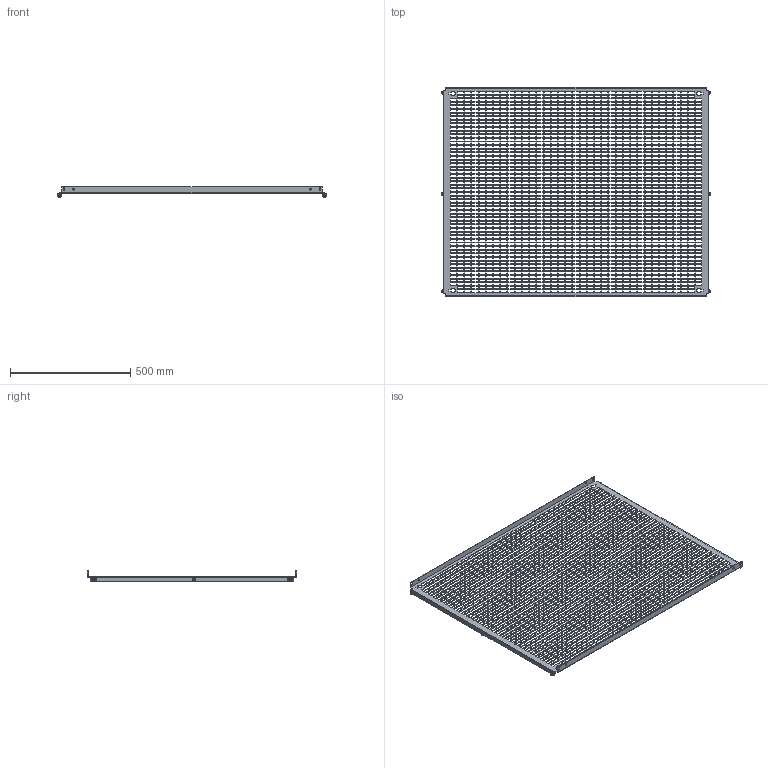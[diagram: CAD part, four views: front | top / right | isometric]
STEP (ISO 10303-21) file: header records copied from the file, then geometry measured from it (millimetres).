
FILE_DESCRIPTION(('Open CASCADE Model'),'2;1');
FILE_NAME('Open CASCADE Shape Model','2025-02-19T16:56:21',('Author'),( 'Open CASCADE'),'Open CASCADE STEP processor 7.8','Open CASCADE 7.8' ,'Unknown');
FILE_SCHEMA(('AUTOMOTIVE_DESIGN { 1 0 10303 214 1 1 1 1 }'));
Length unit declared in the file: millimetre
Products named in the file (4): Compound1; Solid1; Solid2; Solid3
Assembly tree (13 placements, depth 2):
  Compound1
    Solid1
    Solid2  x6
    Solid3  x6
Bounding box: 1119 x 869 x 42.59 mm (x, y, z)
Volume: 1193424.9 mm3; surface area: 1328584.8 mm2
Topology: 13 solids, 13 shells, 8267 faces, 24523 edges, 16295 vertices
Faces by surface type: plane 8024, cone 102, bspline 87, cylinder 36, torus 18
Full cylindrical faces by diameter (mm): 5 x6, 6 x12, 7 x14
Entity records: 273042 total; most frequent: CARTESIAN_POINT 49473, ORIENTED_EDGE 47916, DIRECTION 39904, EDGE_CURVE 23958, LINE 23770, VECTOR 23770, VERTEX_POINT 15965, FACE_BOUND 11965
